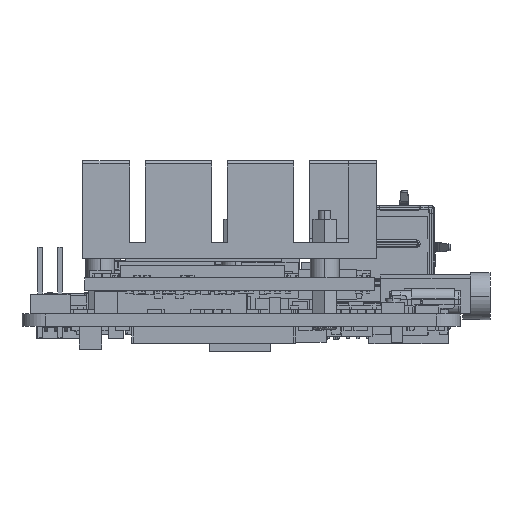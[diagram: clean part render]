
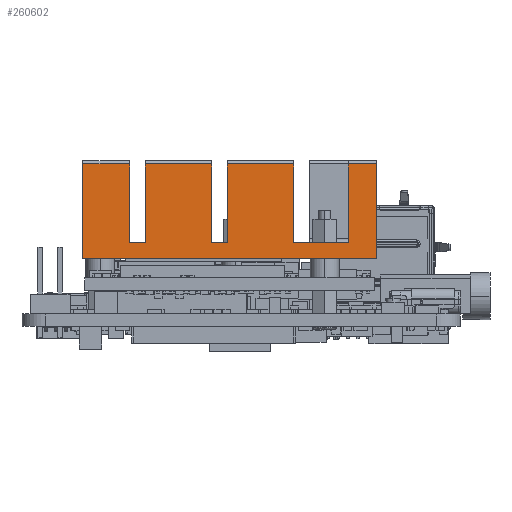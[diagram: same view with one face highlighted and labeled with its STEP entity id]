
A CAD part, left-side view. The second image highlights one B-rep face of the part: STEP entity #260602.
In plain terms, the highlighted planar face has unit normal (-1, 0, 0.018).
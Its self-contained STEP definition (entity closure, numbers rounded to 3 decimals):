
#251198=DIRECTION('',(0.,1.,0.));
#251199=VECTOR('',#251198,6.92);
#251200=CARTESIAN_POINT('',(-20.5,-15.17,5.));
#251201=LINE('',#251200,#251199);
#251715=DIRECTION('',(-0.017,0.,-1.));
#251716=VECTOR('',#251715,12.06);
#251717=CARTESIAN_POINT('',(-20.324,18.75,15.058));
#251718=LINE('',#251717,#251716);
#252655=DIRECTION('',(-0.017,0.,-1.));
#252656=VECTOR('',#252655,10.06);
#252657=CARTESIAN_POINT('',(-20.324,-15.17,15.058));
#252658=LINE('',#252657,#252656);
#252662=DIRECTION('',(0.,-1.,0.));
#252663=VECTOR('',#252662,3.58);
#252664=CARTESIAN_POINT('',(-20.324,-15.17,15.058));
#252665=LINE('',#252664,#252663);
#252669=DIRECTION('',(-0.017,0.,-1.));
#252670=VECTOR('',#252669,12.06);
#252671=CARTESIAN_POINT('',(-20.324,-18.75,15.058));
#252672=LINE('',#252671,#252670);
#252676=DIRECTION('',(0.,1.,0.));
#252677=VECTOR('',#252676,37.5);
#252678=CARTESIAN_POINT('',(-20.535,-18.75,3.));
#252679=LINE('',#252678,#252677);
#252683=DIRECTION('',(0.,-1.,0.));
#252684=VECTOR('',#252683,6.);
#252685=CARTESIAN_POINT('',(-20.324,18.75,15.058));
#252686=LINE('',#252685,#252684);
#252690=DIRECTION('',(-0.017,0.,-1.));
#252691=VECTOR('',#252690,10.06);
#252692=CARTESIAN_POINT('',(-20.324,12.75,15.058));
#252693=LINE('',#252692,#252691);
#252697=DIRECTION('',(0.,1.,0.));
#252698=VECTOR('',#252697,2.);
#252699=CARTESIAN_POINT('',(-20.5,10.75,5.));
#252700=LINE('',#252699,#252698);
#252704=DIRECTION('',(-0.017,0.,-1.));
#252705=VECTOR('',#252704,10.06);
#252706=CARTESIAN_POINT('',(-20.324,10.75,15.058));
#252707=LINE('',#252706,#252705);
#252711=DIRECTION('',(0.,-1.,0.));
#252712=VECTOR('',#252711,8.5);
#252713=CARTESIAN_POINT('',(-20.324,10.75,15.058));
#252714=LINE('',#252713,#252712);
#252718=DIRECTION('',(-0.017,0.,-1.));
#252719=VECTOR('',#252718,10.06);
#252720=CARTESIAN_POINT('',(-20.324,2.25,15.058));
#252721=LINE('',#252720,#252719);
#252725=DIRECTION('',(0.,1.,0.));
#252726=VECTOR('',#252725,2.);
#252727=CARTESIAN_POINT('',(-20.5,0.25,5.));
#252728=LINE('',#252727,#252726);
#252732=DIRECTION('',(-0.017,0.,-1.));
#252733=VECTOR('',#252732,10.06);
#252734=CARTESIAN_POINT('',(-20.324,0.25,15.058));
#252735=LINE('',#252734,#252733);
#252739=DIRECTION('',(0.,-1.,0.));
#252740=VECTOR('',#252739,8.5);
#252741=CARTESIAN_POINT('',(-20.324,0.25,15.058));
#252742=LINE('',#252741,#252740);
#252746=DIRECTION('',(-0.017,0.,-1.));
#252747=VECTOR('',#252746,10.06);
#252748=CARTESIAN_POINT('',(-20.324,-8.25,15.058));
#252749=LINE('',#252748,#252747);
#258035=CARTESIAN_POINT('',(-20.5,-8.25,5.));
#258037=VERTEX_POINT('',#258035);
#258038=CARTESIAN_POINT('',(-20.5,0.25,5.));
#258040=VERTEX_POINT('',#258038);
#258139=CARTESIAN_POINT('',(-20.5,2.25,5.));
#258141=VERTEX_POINT('',#258139);
#258142=CARTESIAN_POINT('',(-20.5,10.75,5.));
#258144=VERTEX_POINT('',#258142);
#258231=CARTESIAN_POINT('',(-20.5,12.75,5.));
#258233=VERTEX_POINT('',#258231);
#258270=CARTESIAN_POINT('',(-20.5,-15.17,5.));
#258272=VERTEX_POINT('',#258270);
#258570=CARTESIAN_POINT('',(-20.535,-18.75,3.));
#258571=CARTESIAN_POINT('',(-20.535,18.75,3.));
#258572=VERTEX_POINT('',#258570);
#258573=VERTEX_POINT('',#258571);
#258574=CARTESIAN_POINT('',(-20.324,-18.75,15.058));
#258575=VERTEX_POINT('',#258574);
#258576=CARTESIAN_POINT('',(-20.324,18.75,15.058));
#258577=VERTEX_POINT('',#258576);
#258602=CARTESIAN_POINT('',(-20.324,-8.25,15.058));
#258603=VERTEX_POINT('',#258602);
#258604=CARTESIAN_POINT('',(-20.324,0.25,15.058));
#258605=VERTEX_POINT('',#258604);
#258606=CARTESIAN_POINT('',(-20.324,2.25,15.058));
#258607=VERTEX_POINT('',#258606);
#258608=CARTESIAN_POINT('',(-20.324,10.75,15.058));
#258609=VERTEX_POINT('',#258608);
#258610=CARTESIAN_POINT('',(-20.324,12.75,15.058));
#258611=VERTEX_POINT('',#258610);
#258624=CARTESIAN_POINT('',(-20.324,-15.17,15.058));
#258625=VERTEX_POINT('',#258624);
#260574=CARTESIAN_POINT('',(-20.5,-19.433,5.));
#260575=DIRECTION('',(1.,0.,-0.017));
#260576=DIRECTION('',(0.,-1.,0.));
#260577=AXIS2_PLACEMENT_3D('',#260574,#260575,#260576);
#260578=PLANE('',#260577);
#260579=ORIENTED_EDGE('',*,*,#258884,.F.);
#260581=ORIENTED_EDGE('',*,*,#260580,.F.);
#260582=ORIENTED_EDGE('',*,*,#260569,.T.);
#260583=ORIENTED_EDGE('',*,*,#260081,.T.);
#260584=ORIENTED_EDGE('',*,*,#259310,.T.);
#260585=ORIENTED_EDGE('',*,*,#259480,.F.);
#260586=ORIENTED_EDGE('',*,*,#260553,.T.);
#260588=ORIENTED_EDGE('',*,*,#260587,.T.);
#260589=ORIENTED_EDGE('',*,*,#258900,.F.);
#260591=ORIENTED_EDGE('',*,*,#260590,.F.);
#260592=ORIENTED_EDGE('',*,*,#260538,.T.);
#260594=ORIENTED_EDGE('',*,*,#260593,.T.);
#260595=ORIENTED_EDGE('',*,*,#258892,.F.);
#260597=ORIENTED_EDGE('',*,*,#260596,.F.);
#260598=ORIENTED_EDGE('',*,*,#260523,.T.);
#260599=ORIENTED_EDGE('',*,*,#260171,.T.);
#260600=EDGE_LOOP('',(#260579,#260581,#260582,#260583,#260584,#260585,#260586,
#260588,#260589,#260591,#260592,#260594,#260595,#260597,#260598,#260599));
#260601=FACE_OUTER_BOUND('',#260600,.F.);
#258884=EDGE_CURVE('',#258272,#258037,#251201,.T.);
#258892=EDGE_CURVE('',#258040,#258141,#252728,.T.);
#258900=EDGE_CURVE('',#258144,#258233,#252700,.T.);
#259310=EDGE_CURVE('',#258572,#258573,#252679,.T.);
#259480=EDGE_CURVE('',#258577,#258573,#251718,.T.);
#260081=EDGE_CURVE('',#258575,#258572,#252672,.T.);
#260171=EDGE_CURVE('',#258603,#258037,#252749,.T.);
#260523=EDGE_CURVE('',#258605,#258603,#252742,.T.);
#260538=EDGE_CURVE('',#258609,#258607,#252714,.T.);
#260553=EDGE_CURVE('',#258577,#258611,#252686,.T.);
#260569=EDGE_CURVE('',#258625,#258575,#252665,.T.);
#260580=EDGE_CURVE('',#258625,#258272,#252658,.T.);
#260587=EDGE_CURVE('',#258611,#258233,#252693,.T.);
#260590=EDGE_CURVE('',#258609,#258144,#252707,.T.);
#260593=EDGE_CURVE('',#258607,#258141,#252721,.T.);
#260596=EDGE_CURVE('',#258605,#258040,#252735,.T.);
#260602=ADVANCED_FACE('',(#260601),#260578,.F.);
